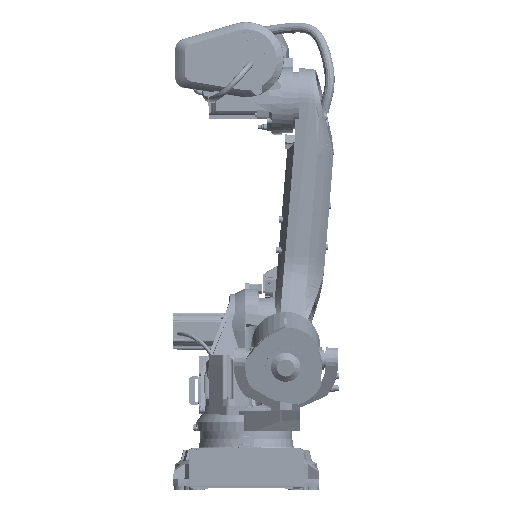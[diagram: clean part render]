
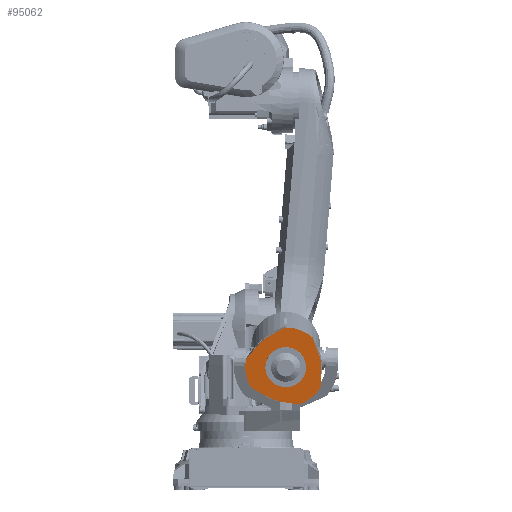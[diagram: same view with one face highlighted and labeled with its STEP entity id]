
A CAD part, left-side view. The second image highlights one B-rep face of the part: STEP entity #95062.
In plain terms, the highlighted planar face has unit normal (-0.978, 0, -0.207).
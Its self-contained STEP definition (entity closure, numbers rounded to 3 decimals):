
#5121=FACE_BOUND('',#19584,.T.);
#7471=CIRCLE('',#103054,175.);
#7473=CIRCLE('',#103057,100.);
#7511=CIRCLE('',#103161,175.);
#7512=CIRCLE('',#103162,10.);
#7513=CIRCLE('',#103163,199.);
#7514=CIRCLE('',#103164,10.);
#7515=CIRCLE('',#103165,10.);
#7516=CIRCLE('',#103166,199.);
#7517=CIRCLE('',#103167,10.);
#7518=CIRCLE('',#103168,175.);
#7519=CIRCLE('',#103169,10.);
#7520=CIRCLE('',#103170,199.);
#7521=CIRCLE('',#103171,10.);
#13183=FACE_OUTER_BOUND('',#19583,.T.);
#19583=EDGE_LOOP('',(#81073,#81074,#81075,#81076,#81077,#81078,#81079,#81080,
#81081,#81082,#81083,#81084,#81085,#81086,#81087,#81088,#81089,#81090));
#19584=EDGE_LOOP('',(#81091));
#27356=LINE('',#223441,#35454);
#27357=LINE('',#223448,#35455);
#27358=LINE('',#223450,#35456);
#27359=LINE('',#223458,#35457);
#27360=LINE('',#223462,#35458);
#27361=LINE('',#223469,#35459);
#35454=VECTOR('',#124842,1000.);
#35455=VECTOR('',#124849,1000.);
#35456=VECTOR('',#124850,1000.);
#35457=VECTOR('',#124857,1000.);
#35458=VECTOR('',#124860,1000.);
#35459=VECTOR('',#124867,1000.);
#44238=VERTEX_POINT('',#222953);
#44239=VERTEX_POINT('',#222954);
#44242=VERTEX_POINT('',#222962);
#44329=VERTEX_POINT('',#223437);
#44330=VERTEX_POINT('',#223438);
#44331=VERTEX_POINT('',#223440);
#44332=VERTEX_POINT('',#223442);
#44333=VERTEX_POINT('',#223444);
#44334=VERTEX_POINT('',#223446);
#44335=VERTEX_POINT('',#223449);
#44336=VERTEX_POINT('',#223451);
#44337=VERTEX_POINT('',#223453);
#44338=VERTEX_POINT('',#223455);
#44339=VERTEX_POINT('',#223457);
#44340=VERTEX_POINT('',#223459);
#44341=VERTEX_POINT('',#223461);
#44342=VERTEX_POINT('',#223463);
#44343=VERTEX_POINT('',#223465);
#44344=VERTEX_POINT('',#223467);
#56769=EDGE_CURVE('',#44238,#44239,#7471,.T.);
#56773=EDGE_CURVE('',#44242,#44242,#7473,.T.);
#56887=EDGE_CURVE('',#44329,#44330,#7511,.T.);
#56888=EDGE_CURVE('',#44330,#44331,#27356,.T.);
#56889=EDGE_CURVE('',#44331,#44332,#7512,.T.);
#56890=EDGE_CURVE('',#44332,#44333,#7513,.T.);
#56891=EDGE_CURVE('',#44333,#44334,#7514,.T.);
#56892=EDGE_CURVE('',#44334,#44238,#27357,.T.);
#56893=EDGE_CURVE('',#44239,#44335,#27358,.T.);
#56894=EDGE_CURVE('',#44335,#44336,#7515,.T.);
#56895=EDGE_CURVE('',#44336,#44337,#7516,.T.);
#56896=EDGE_CURVE('',#44337,#44338,#7517,.T.);
#56897=EDGE_CURVE('',#44338,#44339,#27359,.T.);
#56898=EDGE_CURVE('',#44339,#44340,#7518,.T.);
#56899=EDGE_CURVE('',#44340,#44341,#27360,.T.);
#56900=EDGE_CURVE('',#44341,#44342,#7519,.T.);
#56901=EDGE_CURVE('',#44342,#44343,#7520,.T.);
#56902=EDGE_CURVE('',#44343,#44344,#7521,.T.);
#56903=EDGE_CURVE('',#44344,#44329,#27361,.T.);
#81073=ORIENTED_EDGE('',*,*,#56887,.T.);
#81074=ORIENTED_EDGE('',*,*,#56888,.T.);
#81075=ORIENTED_EDGE('',*,*,#56889,.T.);
#81076=ORIENTED_EDGE('',*,*,#56890,.T.);
#81077=ORIENTED_EDGE('',*,*,#56891,.T.);
#81078=ORIENTED_EDGE('',*,*,#56892,.T.);
#81079=ORIENTED_EDGE('',*,*,#56769,.T.);
#81080=ORIENTED_EDGE('',*,*,#56893,.T.);
#81081=ORIENTED_EDGE('',*,*,#56894,.T.);
#81082=ORIENTED_EDGE('',*,*,#56895,.T.);
#81083=ORIENTED_EDGE('',*,*,#56896,.T.);
#81084=ORIENTED_EDGE('',*,*,#56897,.T.);
#81085=ORIENTED_EDGE('',*,*,#56898,.T.);
#81086=ORIENTED_EDGE('',*,*,#56899,.T.);
#81087=ORIENTED_EDGE('',*,*,#56900,.T.);
#81088=ORIENTED_EDGE('',*,*,#56901,.T.);
#81089=ORIENTED_EDGE('',*,*,#56902,.T.);
#81090=ORIENTED_EDGE('',*,*,#56903,.T.);
#81091=ORIENTED_EDGE('',*,*,#56773,.T.);
#89464=PLANE('',#103160);
#95062=ADVANCED_FACE('',(#13183,#5121),#89464,.T.);
#103054=AXIS2_PLACEMENT_3D('',#222955,#124586,#124587);
#103057=AXIS2_PLACEMENT_3D('',#222963,#124594,#124595);
#103160=AXIS2_PLACEMENT_3D('',#223436,#124838,#124839);
#103161=AXIS2_PLACEMENT_3D('',#223439,#124840,#124841);
#103162=AXIS2_PLACEMENT_3D('',#223443,#124843,#124844);
#103163=AXIS2_PLACEMENT_3D('',#223445,#124845,#124846);
#103164=AXIS2_PLACEMENT_3D('',#223447,#124847,#124848);
#103165=AXIS2_PLACEMENT_3D('',#223452,#124851,#124852);
#103166=AXIS2_PLACEMENT_3D('',#223454,#124853,#124854);
#103167=AXIS2_PLACEMENT_3D('',#223456,#124855,#124856);
#103168=AXIS2_PLACEMENT_3D('',#223460,#124858,#124859);
#103169=AXIS2_PLACEMENT_3D('',#223464,#124861,#124862);
#103170=AXIS2_PLACEMENT_3D('',#223466,#124863,#124864);
#103171=AXIS2_PLACEMENT_3D('',#223468,#124865,#124866);
#124586=DIRECTION('center_axis',(-0.978,0.,
-0.208));
#124587=DIRECTION('ref_axis',(-0.195,-0.342,0.919));
#124594=DIRECTION('center_axis',(0.978,0.,
0.208));
#124595=DIRECTION('ref_axis',(0.,-1.,0.));
#124838=DIRECTION('center_axis',(-0.978,0.,
-0.208));
#124839=DIRECTION('ref_axis',(-0.195,-0.342,0.919));
#124840=DIRECTION('center_axis',(-0.978,0.,
-0.208));
#124841=DIRECTION('ref_axis',(-0.195,-0.342,0.919));
#124842=DIRECTION('',(0.159,0.64,-0.752));
#124843=DIRECTION('center_axis',(-0.978,0.,
-0.208));
#124844=DIRECTION('ref_axis',(0.195,0.342,-0.919));
#124845=DIRECTION('center_axis',(-0.978,0.,
-0.208));
#124846=DIRECTION('ref_axis',(-0.195,-0.342,0.919));
#124847=DIRECTION('center_axis',(-0.978,0.,
-0.208));
#124848=DIRECTION('ref_axis',(0.195,0.342,-0.919));
#124849=DIRECTION('',(0.104,-0.864,-0.492));
#124850=DIRECTION('',(0.035,-0.985,-0.166));
#124851=DIRECTION('center_axis',(-0.978,0.,
-0.208));
#124852=DIRECTION('ref_axis',(0.195,0.342,-0.919));
#124853=DIRECTION('center_axis',(-0.978,0.,
-0.208));
#124854=DIRECTION('ref_axis',(-0.195,-0.342,0.919));
#124855=DIRECTION('center_axis',(-0.978,0.,
-0.208));
#124856=DIRECTION('ref_axis',(-0.195,-0.342,0.919));
#124857=DIRECTION('',(-0.208,-0.004,0.978));
#124858=DIRECTION('center_axis',(-0.978,0.,
-0.208));
#124859=DIRECTION('ref_axis',(-0.195,-0.342,0.919));
#124860=DIRECTION('',(-0.195,0.345,0.918));
#124861=DIRECTION('center_axis',(-0.978,0.,
-0.208));
#124862=DIRECTION('ref_axis',(-0.195,-0.342,0.919));
#124863=DIRECTION('center_axis',(-0.978,0.,
-0.208));
#124864=DIRECTION('ref_axis',(-0.195,-0.342,0.919));
#124865=DIRECTION('center_axis',(-0.978,0.,
-0.208));
#124866=DIRECTION('ref_axis',(0.195,0.342,-0.919));
#124867=DIRECTION('',(0.103,0.868,-0.486));
#222953=CARTESIAN_POINT('',(-476.091,-105.961,456.434));
#222954=CARTESIAN_POINT('',(-471.69,-164.225,435.689));
#222955=CARTESIAN_POINT('Origin',(-507.474,-194.,604.384));
#222962=CARTESIAN_POINT('',(-487.039,-211.365,508.047));
#222963=CARTESIAN_POINT('Origin',(-507.474,-194.,604.384));
#223436=CARTESIAN_POINT('Origin',(-507.474,-194.,604.384));
#223437=CARTESIAN_POINT('',(-538.987,-107.04,752.944));
#223438=CARTESIAN_POINT('',(-530.717,-59.543,713.956));
#223439=CARTESIAN_POINT('Origin',(-507.474,-194.,604.384));
#223440=CARTESIAN_POINT('',(-516.021,-0.546,644.678));
#223441=CARTESIAN_POINT('',(-530.717,-59.543,713.956));
#223442=CARTESIAN_POINT('',(-515.075,1.6,640.218));
#223443=CARTESIAN_POINT('Origin',(-514.693,-8.23,638.417));
#223444=CARTESIAN_POINT('',(-486.449,-22.725,505.269));
#223445=CARTESIAN_POINT('Origin',(-507.474,-194.,604.384));
#223446=CARTESIAN_POINT('',(-485.713,-26.301,501.795));
#223447=CARTESIAN_POINT('Origin',(-487.506,-31.332,510.25));
#223448=CARTESIAN_POINT('',(-485.713,-26.301,501.795));
#223449=CARTESIAN_POINT('',(-468.436,-255.055,420.348));
#223450=CARTESIAN_POINT('',(-468.436,-255.055,420.348));
#223451=CARTESIAN_POINT('',(-468.523,-260.077,420.76));
#223452=CARTESIAN_POINT('Origin',(-470.481,-256.756,429.988));
#223453=CARTESIAN_POINT('',(-487.207,-367.384,508.842));
#223454=CARTESIAN_POINT('Origin',(-507.474,-194.,604.384));
#223455=CARTESIAN_POINT('',(-488.218,-368.671,513.608));
#223456=CARTESIAN_POINT('Origin',(-488.226,-358.671,513.643));
#223457=CARTESIAN_POINT('',(-507.345,-368.999,603.775));
#223458=CARTESIAN_POINT('',(-507.345,-368.999,603.775));
#223459=CARTESIAN_POINT('',(-520.015,-358.232,663.507));
#223460=CARTESIAN_POINT('Origin',(-507.474,-194.,604.384));
#223461=CARTESIAN_POINT('',(-537.965,-326.399,748.127));
#223462=CARTESIAN_POINT('',(-520.015,-358.232,663.507));
#223463=CARTESIAN_POINT('',(-538.823,-323.523,752.175));
#223464=CARTESIAN_POINT('Origin',(-537.248,-317.014,744.748));
#223465=CARTESIAN_POINT('',(-548.765,-191.891,799.042));
#223466=CARTESIAN_POINT('Origin',(-507.474,-194.,604.384));
#223467=CARTESIAN_POINT('',(-548.491,-187.028,797.749));
#223468=CARTESIAN_POINT('Origin',(-546.69,-191.997,789.26));
#223469=CARTESIAN_POINT('',(-538.987,-107.04,752.944));
